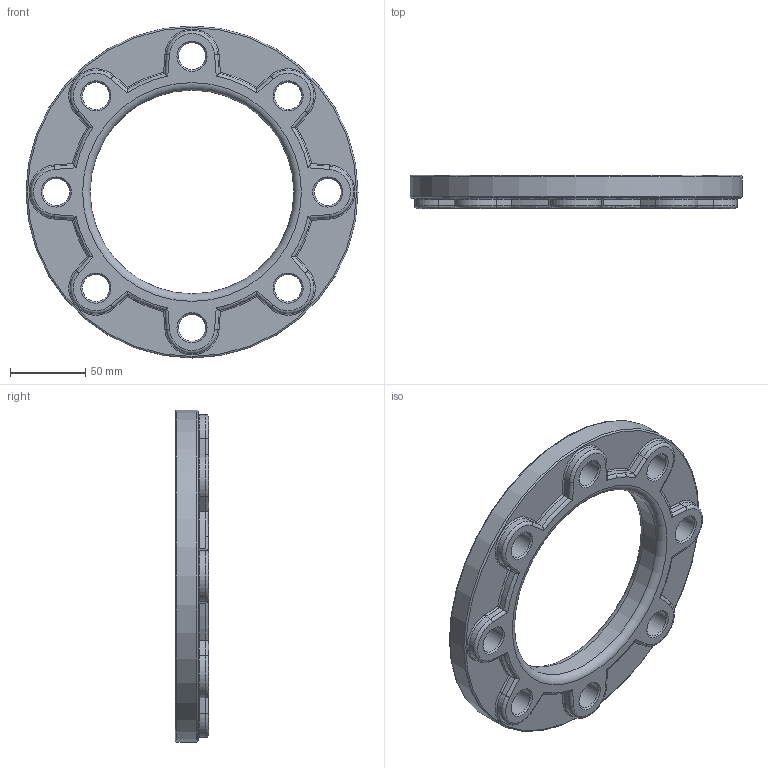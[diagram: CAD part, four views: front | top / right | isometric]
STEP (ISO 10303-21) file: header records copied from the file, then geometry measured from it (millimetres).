
FILE_DESCRIPTION(/* description */ ('Unknown'),/* implementation_level */ '2;1');
FILE_NAME(/* name */ 'FA125B',/* time_stamp */ '2022-07-19T12:00:50+02:00',/* author */ ('Unknown'),/* organization */ ('Unknown'),/* preprocessor_version */ 'ST-DEVELOPER v18.102',/* originating_system */ 'Solid Edge',/* authorisation */ 'Unknown');
FILE_SCHEMA (('AUTOMOTIVE_DESIGN {1 0 10303 214 3 1 1}'));
Length unit declared in the file: millimetre
Products named in the file (1): FA125B
Bounding box: 220 x 22 x 220 mm (x, y, z)
Volume: 392350 mm3; surface area: 74811.5 mm2
Topology: 1 solids, 1 shells, 129 faces, 318 edges, 192 vertices
Faces by surface type: cylinder 58, torus 36, plane 19, cone 16
Full cylindrical faces by diameter (mm): 18 x8, 135 x1, 220 x1
Entity records: 3552 total; most frequent: CARTESIAN_POINT 690, DIRECTION 628, ORIENTED_EDGE 528, AXIS2_PLACEMENT_3D 266, EDGE_CURVE 264, EDGE_LOOP 178, FACE_BOUND 178, VERTEX_POINT 168
